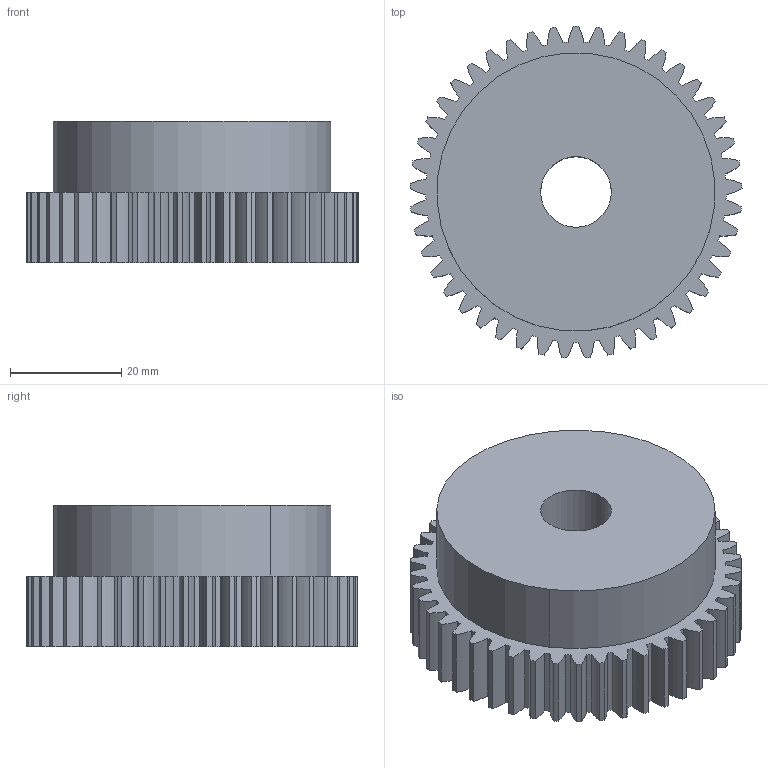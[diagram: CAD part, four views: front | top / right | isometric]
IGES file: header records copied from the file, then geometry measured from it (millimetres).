
Global section: file name: C:\Documents and Settings\Administrator\Desktop\Transfer Temp\gss-2045.igs; native system: AutoDesk Inventor R2.0 ; preprocessor: AutoDesk Inventor Iges Exporter R2.0; author: No Author specified; organization: No Organization specified; date: 20011226.200319; units: inch
Bounding box: 59.68 x 59.65 x 25.4 mm (x, y, z)
Surface area: 12411 mm2 (no closed solid volume)
Topology: 0 solids, 0 shells, 187 faces, 1104 edges, 1104 vertices
Faces by surface type: revolution 182, bspline 5
